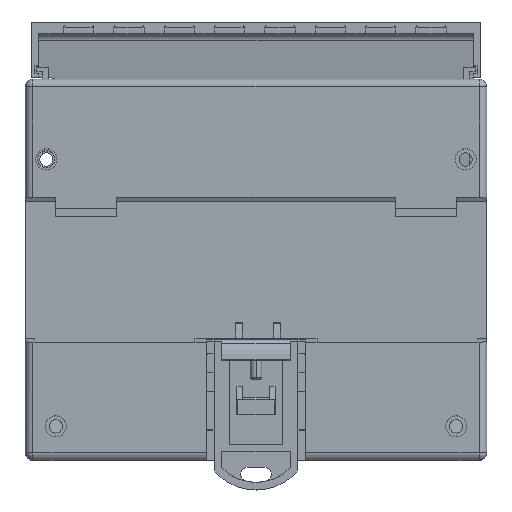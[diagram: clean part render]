
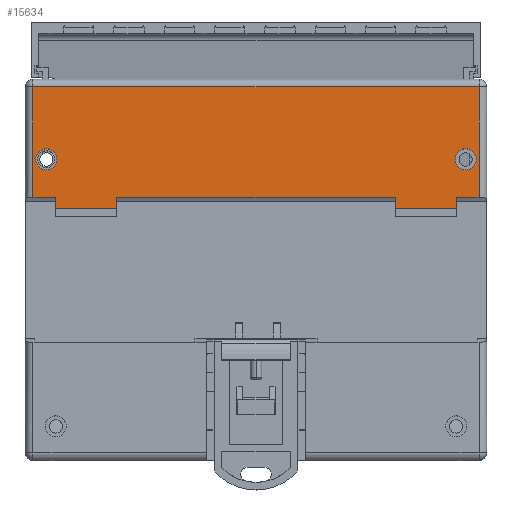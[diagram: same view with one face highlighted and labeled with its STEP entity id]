
A CAD part, top view. The second image highlights one B-rep face of the part: STEP entity #15634.
In plain terms, the highlighted planar face has unit normal (0, 0, 1).
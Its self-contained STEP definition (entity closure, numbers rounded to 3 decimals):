
#387 = FACE_BOUND ( 'NONE', #1877, .T. ) ;
#399 = DIRECTION ( 'NONE',  ( 0., -1., 0. ) ) ;
#606 = VERTEX_POINT ( 'NONE', #48042 ) ;
#850 = DIRECTION ( 'NONE',  ( -1., 0., 0. ) ) ;
#902 = DIRECTION ( 'NONE',  ( 0., -1., 0. ) ) ;
#1151 = CARTESIAN_POINT ( 'NONE',  ( 118.25, 21., 31. ) ) ;
#1315 = AXIS2_PLACEMENT_3D ( 'NONE', #4560, #43473, #850 ) ;
#1877 = EDGE_LOOP ( 'NONE', ( #14816, #40738 ) ) ;
#1959 = CARTESIAN_POINT ( 'NONE',  ( 2., 31., 31. ) ) ;
#2532 = VERTEX_POINT ( 'NONE', #10996 ) ;
#2825 = VECTOR ( 'NONE', #399, 1000. ) ;
#4106 = DIRECTION ( 'NONE',  ( 1., 0., 0. ) ) ;
#4539 = EDGE_CURVE ( 'NONE', #41714, #42771, #12891, .T. ) ;
#4560 = CARTESIAN_POINT ( 'NONE',  ( 0., 0., 31. ) ) ;
#4571 = DIRECTION ( 'NONE',  ( 1., 0., 0. ) ) ;
#4646 = VERTEX_POINT ( 'NONE', #36243 ) ;
#6000 = DIRECTION ( 'NONE',  ( -1., 0., 0. ) ) ;
#6083 = DIRECTION ( 'NONE',  ( 1., 0., 0. ) ) ;
#6094 = EDGE_CURVE ( 'NONE', #42771, #16525, #41296, .T. ) ;
#6127 = ORIENTED_EDGE ( 'NONE', *, *, #4539, .T. ) ;
#6427 = LINE ( 'NONE', #45400, #24135 ) ;
#6601 = LINE ( 'NONE', #7863, #37024 ) ;
#6626 = LINE ( 'NONE', #29687, #34048 ) ;
#6926 = DIRECTION ( 'NONE',  ( 0., -1., 0. ) ) ;
#7472 = VERTEX_POINT ( 'NONE', #26013 ) ;
#7616 = EDGE_CURVE ( 'NONE', #35085, #7472, #29646, .T. ) ;
#7699 = LINE ( 'NONE', #26280, #16864 ) ;
#7863 = CARTESIAN_POINT ( 'NONE',  ( 0., 31., 31. ) ) ;
#8249 = ORIENTED_EDGE ( 'NONE', *, *, #26990, .T. ) ;
#8807 = CIRCLE ( 'NONE', #45912, 2.75 ) ;
#8812 = ORIENTED_EDGE ( 'NONE', *, *, #31563, .T. ) ;
#9043 = VECTOR ( 'NONE', #15267, 1000. ) ;
#9981 = CARTESIAN_POINT ( 'NONE',  ( 119., 2., 31. ) ) ;
#9988 = CARTESIAN_POINT ( 'NONE',  ( 2., 2., 31. ) ) ;
#10995 = EDGE_CURVE ( 'NONE', #31160, #28843, #12321, .T. ) ;
#10996 = CARTESIAN_POINT ( 'NONE',  ( 97., 34., 31. ) ) ;
#11236 = DIRECTION ( 'NONE',  ( 0., -1., 0. ) ) ;
#11271 = DIRECTION ( 'NONE',  ( 0., 1., 0. ) ) ;
#11472 = EDGE_LOOP ( 'NONE', ( #35591, #33356 ) ) ;
#12321 = LINE ( 'NONE', #46611, #31833 ) ;
#12763 = VECTOR ( 'NONE', #18880, 1000. ) ;
#12891 = LINE ( 'NONE', #13292, #32386 ) ;
#13292 = CARTESIAN_POINT ( 'NONE',  ( 2., 0., 31. ) ) ;
#13748 = CARTESIAN_POINT ( 'NONE',  ( 8., 31., 31. ) ) ;
#13757 = LINE ( 'NONE', #14601, #28385 ) ;
#14046 = VERTEX_POINT ( 'NONE', #40527 ) ;
#14601 = CARTESIAN_POINT ( 'NONE',  ( 24., 31., 31. ) ) ;
#14816 = ORIENTED_EDGE ( 'NONE', *, *, #49222, .F. ) ;
#15267 = DIRECTION ( 'NONE',  ( 0., -1., 0. ) ) ;
#15498 = EDGE_CURVE ( 'NONE', #28843, #42885, #13757, .T. ) ;
#15520 = CARTESIAN_POINT ( 'NONE',  ( 5.5, 21., 31. ) ) ;
#15634 = ADVANCED_FACE ( 'NONE', ( #387, #47766, #18016 ), #16129, .F. ) ;
#16078 = EDGE_CURVE ( 'NONE', #20421, #42885, #49498, .T. ) ;
#16129 = PLANE ( 'NONE',  #1315 ) ;
#16525 = VERTEX_POINT ( 'NONE', #9981 ) ;
#16864 = VECTOR ( 'NONE', #11271, 1000. ) ;
#17947 = ORIENTED_EDGE ( 'NONE', *, *, #10995, .F. ) ;
#18016 = FACE_OUTER_BOUND ( 'NONE', #41067, .T. ) ;
#18880 = DIRECTION ( 'NONE',  ( -1., 0., 0. ) ) ;
#19016 = CARTESIAN_POINT ( 'NONE',  ( 24., 31., 31. ) ) ;
#19400 = LINE ( 'NONE', #42622, #9043 ) ;
#19868 = VERTEX_POINT ( 'NONE', #13748 ) ;
#19922 = ORIENTED_EDGE ( 'NONE', *, *, #32898, .T. ) ;
#20093 = EDGE_CURVE ( 'NONE', #46416, #2532, #23131, .T. ) ;
#20421 = VERTEX_POINT ( 'NONE', #49179 ) ;
#23131 = LINE ( 'NONE', #27307, #12763 ) ;
#23263 = DIRECTION ( 'NONE',  ( 1., 0., 0. ) ) ;
#23578 = CARTESIAN_POINT ( 'NONE',  ( 0., 31., 31. ) ) ;
#23691 = VECTOR ( 'NONE', #4571, 1000. ) ;
#23695 = CARTESIAN_POINT ( 'NONE',  ( 113., 31., 31. ) ) ;
#23920 = CARTESIAN_POINT ( 'NONE',  ( 5.5, 21., 31. ) ) ;
#24041 = DIRECTION ( 'NONE',  ( 0., 0., 1. ) ) ;
#24135 = VECTOR ( 'NONE', #11236, 1000. ) ;
#24355 = EDGE_CURVE ( 'NONE', #14046, #47066, #28844, .T. ) ;
#25248 = ORIENTED_EDGE ( 'NONE', *, *, #16078, .T. ) ;
#25442 = ORIENTED_EDGE ( 'NONE', *, *, #20093, .T. ) ;
#26013 = CARTESIAN_POINT ( 'NONE',  ( 2.75, 21., 31. ) ) ;
#26280 = CARTESIAN_POINT ( 'NONE',  ( 119., 0., 31. ) ) ;
#26990 = EDGE_CURVE ( 'NONE', #606, #4646, #6626, .T. ) ;
#27288 = DIRECTION ( 'NONE',  ( 1., 0., 0. ) ) ;
#27307 = CARTESIAN_POINT ( 'NONE',  ( 118., 34., 31. ) ) ;
#27742 = CARTESIAN_POINT ( 'NONE',  ( 0., 2., 31. ) ) ;
#28385 = VECTOR ( 'NONE', #6926, 1000. ) ;
#28399 = CARTESIAN_POINT ( 'NONE',  ( 24., 34., 31. ) ) ;
#28843 = VERTEX_POINT ( 'NONE', #28399 ) ;
#28844 = CIRCLE ( 'NONE', #39199, 2.75 ) ;
#29165 = CIRCLE ( 'NONE', #43906, 2.75 ) ;
#29447 = DIRECTION ( 'NONE',  ( 0., 0., 1. ) ) ;
#29646 = CIRCLE ( 'NONE', #49432, 2.75 ) ;
#29687 = CARTESIAN_POINT ( 'NONE',  ( 0., 31., 31. ) ) ;
#30459 = DIRECTION ( 'NONE',  ( 1., 0., 0. ) ) ;
#31073 = DIRECTION ( 'NONE',  ( 0., 0., 1. ) ) ;
#31160 = VERTEX_POINT ( 'NONE', #35119 ) ;
#31563 = EDGE_CURVE ( 'NONE', #2532, #20421, #19400, .T. ) ;
#31833 = VECTOR ( 'NONE', #27288, 1000. ) ;
#32386 = VECTOR ( 'NONE', #902, 1000. ) ;
#32440 = EDGE_CURVE ( 'NONE', #16525, #606, #7699, .T. ) ;
#32699 = EDGE_CURVE ( 'NONE', #46416, #4646, #42380, .T. ) ;
#32846 = ORIENTED_EDGE ( 'NONE', *, *, #32699, .F. ) ;
#32898 = EDGE_CURVE ( 'NONE', #31160, #19868, #6427, .T. ) ;
#33356 = ORIENTED_EDGE ( 'NONE', *, *, #42090, .F. ) ;
#34048 = VECTOR ( 'NONE', #6000, 1000. ) ;
#35085 = VERTEX_POINT ( 'NONE', #47009 ) ;
#35119 = CARTESIAN_POINT ( 'NONE',  ( 8., 34., 31. ) ) ;
#35271 = ORIENTED_EDGE ( 'NONE', *, *, #6094, .T. ) ;
#35591 = ORIENTED_EDGE ( 'NONE', *, *, #7616, .F. ) ;
#36243 = CARTESIAN_POINT ( 'NONE',  ( 113., 31., 31. ) ) ;
#37024 = VECTOR ( 'NONE', #43049, 1000. ) ;
#38240 = DIRECTION ( 'NONE',  ( 0., 0., 1. ) ) ;
#39181 = VECTOR ( 'NONE', #46488, 1000. ) ;
#39199 = AXIS2_PLACEMENT_3D ( 'NONE', #49589, #38240, #30459 ) ;
#40527 = CARTESIAN_POINT ( 'NONE',  ( 112.75, 21., 31. ) ) ;
#40734 = ORIENTED_EDGE ( 'NONE', *, *, #32440, .T. ) ;
#40738 = ORIENTED_EDGE ( 'NONE', *, *, #24355, .F. ) ;
#41067 = EDGE_LOOP ( 'NONE', ( #47252, #6127, #35271, #40734, #8249, #32846, #25442, #8812, #25248, #44816, #17947, #19922 ) ) ;
#41296 = LINE ( 'NONE', #27742, #23691 ) ;
#41714 = VERTEX_POINT ( 'NONE', #1959 ) ;
#42090 = EDGE_CURVE ( 'NONE', #7472, #35085, #8807, .T. ) ;
#42380 = LINE ( 'NONE', #23695, #2825 ) ;
#42622 = CARTESIAN_POINT ( 'NONE',  ( 97., 31., 31. ) ) ;
#42771 = VERTEX_POINT ( 'NONE', #9988 ) ;
#42885 = VERTEX_POINT ( 'NONE', #19016 ) ;
#43049 = DIRECTION ( 'NONE',  ( -1., 0., 0. ) ) ;
#43473 = DIRECTION ( 'NONE',  ( 0., 0., -1. ) ) ;
#43906 = AXIS2_PLACEMENT_3D ( 'NONE', #44858, #29447, #6083 ) ;
#44816 = ORIENTED_EDGE ( 'NONE', *, *, #15498, .F. ) ;
#44858 = CARTESIAN_POINT ( 'NONE',  ( 115.5, 21., 31. ) ) ;
#45400 = CARTESIAN_POINT ( 'NONE',  ( 8., 31., 31. ) ) ;
#45912 = AXIS2_PLACEMENT_3D ( 'NONE', #15520, #24041, #4106 ) ;
#46416 = VERTEX_POINT ( 'NONE', #47204 ) ;
#46488 = DIRECTION ( 'NONE',  ( -1., 0., 0. ) ) ;
#46611 = CARTESIAN_POINT ( 'NONE',  ( -70., 34., 31. ) ) ;
#47009 = CARTESIAN_POINT ( 'NONE',  ( 8.25, 21., 31. ) ) ;
#47066 = VERTEX_POINT ( 'NONE', #1151 ) ;
#47204 = CARTESIAN_POINT ( 'NONE',  ( 113., 34., 31. ) ) ;
#47252 = ORIENTED_EDGE ( 'NONE', *, *, #49058, .T. ) ;
#47766 = FACE_BOUND ( 'NONE', #11472, .T. ) ;
#48042 = CARTESIAN_POINT ( 'NONE',  ( 119., 31., 31. ) ) ;
#49058 = EDGE_CURVE ( 'NONE', #19868, #41714, #6601, .T. ) ;
#49179 = CARTESIAN_POINT ( 'NONE',  ( 97., 31., 31. ) ) ;
#49222 = EDGE_CURVE ( 'NONE', #47066, #14046, #29165, .T. ) ;
#49432 = AXIS2_PLACEMENT_3D ( 'NONE', #23920, #31073, #23263 ) ;
#49498 = LINE ( 'NONE', #23578, #39181 ) ;
#49589 = CARTESIAN_POINT ( 'NONE',  ( 115.5, 21., 31. ) ) ;
